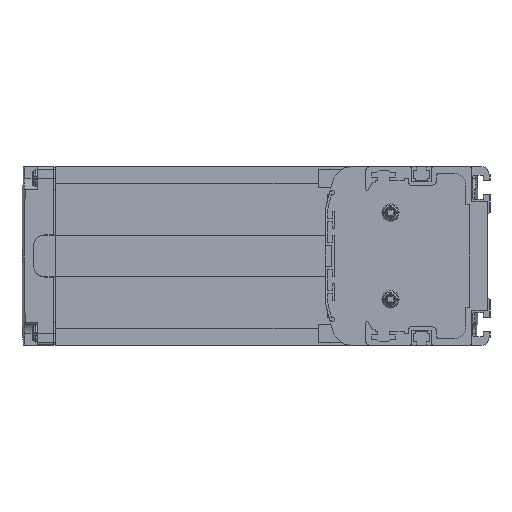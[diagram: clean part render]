
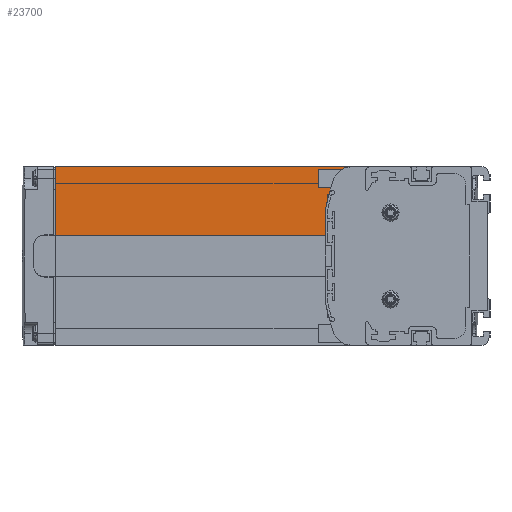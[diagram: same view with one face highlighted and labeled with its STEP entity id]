
A CAD part, left-side view. The second image highlights one B-rep face of the part: STEP entity #23700.
In plain terms, the highlighted planar face has unit normal (-1, 0, 0).
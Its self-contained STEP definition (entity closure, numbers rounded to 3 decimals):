
#1314=DIRECTION('',(0.,-1.,0.));
#1315=VECTOR('',#1314,0.571);
#1316=CARTESIAN_POINT('',(3.,71.,27.));
#1317=LINE('',#1316,#1315);
#1326=DIRECTION('',(0.,0.,1.));
#1327=VECTOR('',#1326,2.224);
#1328=CARTESIAN_POINT('',(3.,71.,24.776));
#1329=LINE('',#1328,#1327);
#1346=DIRECTION('',(0.,0.,-1.));
#1347=VECTOR('',#1346,29.9);
#1348=CARTESIAN_POINT('',(3.,190.,39.));
#1349=LINE('',#1348,#1347);
#5193=DIRECTION('',(0.,-1.,0.));
#5194=VECTOR('',#5193,129.245);
#5195=CARTESIAN_POINT('',(3.,190.,39.));
#5196=LINE('',#5195,#5194);
#6467=DIRECTION('',(0.,0.,-1.));
#6468=VECTOR('',#6467,10.723);
#6469=CARTESIAN_POINT('',(3.,72.,19.823));
#6470=LINE('',#6469,#6468);
#6483=CARTESIAN_POINT('',(3.,70.,19.823));
#6484=DIRECTION('',(1.,0.,0.));
#6485=DIRECTION('',(0.,1.,0.));
#6486=AXIS2_PLACEMENT_3D('',#6483,#6484,#6485);
#6492=CARTESIAN_POINT('',(3.,-6.765,6.));
#6493=DIRECTION('',(1.,0.,0.));
#6494=DIRECTION('',(0.,0.984,0.177));
#6495=AXIS2_PLACEMENT_3D('',#6492,#6493,#6494);
#6497=CARTESIAN_POINT('',(3.,-6.765,6.));
#6498=DIRECTION('',(1.,0.,0.));
#6499=DIRECTION('',(0.,0.965,0.263));
#6500=AXIS2_PLACEMENT_3D('',#6497,#6498,#6499);
#6506=CARTESIAN_POINT('',(3.,60.755,31.));
#6507=DIRECTION('',(-1.,0.,0.));
#6508=DIRECTION('',(0.,0.,1.));
#6509=AXIS2_PLACEMENT_3D('',#6506,#6507,#6508);
#11120=DIRECTION('',(0.,-1.,0.));
#11121=VECTOR('',#11120,118.);
#11122=CARTESIAN_POINT('',(3.,190.,9.1));
#11123=LINE('',#11122,#11121);
#17523=CARTESIAN_POINT('',(3.,190.,39.));
#17524=VERTEX_POINT('',#17523);
#17525=CARTESIAN_POINT('',(3.,190.,9.1));
#17526=VERTEX_POINT('',#17525);
#17555=CARTESIAN_POINT('',(3.,71.,27.));
#17557=VERTEX_POINT('',#17555);
#21505=CARTESIAN_POINT('',(3.,70.429,27.));
#21507=VERTEX_POINT('',#21505);
#21514=CARTESIAN_POINT('',(3.,71.,24.776));
#21516=VERTEX_POINT('',#21514);
#21524=CARTESIAN_POINT('',(3.,72.,9.1));
#21525=VERTEX_POINT('',#21524);
#21534=CARTESIAN_POINT('',(3.,72.,19.823));
#21535=CARTESIAN_POINT('',(3.,71.968,20.177));
#21536=VERTEX_POINT('',#21534);
#21537=VERTEX_POINT('',#21535);
#21538=CARTESIAN_POINT('',(3.,68.257,33.778));
#21539=VERTEX_POINT('',#21538);
#21540=CARTESIAN_POINT('',(3.,60.755,39.));
#21541=VERTEX_POINT('',#21540);
#23675=CARTESIAN_POINT('',(3.,105.,24.05));
#23676=DIRECTION('',(1.,0.,0.));
#23677=DIRECTION('',(0.,0.,1.));
#23678=AXIS2_PLACEMENT_3D('',#23675,#23676,#23677);
#23679=PLANE('',#23678);
#23681=ORIENTED_EDGE('',*,*,#23680,.F.);
#23683=ORIENTED_EDGE('',*,*,#23682,.T.);
#23685=ORIENTED_EDGE('',*,*,#23684,.F.);
#23687=ORIENTED_EDGE('',*,*,#23686,.F.);
#23689=ORIENTED_EDGE('',*,*,#23688,.T.);
#23691=ORIENTED_EDGE('',*,*,#23690,.T.);
#23693=ORIENTED_EDGE('',*,*,#23692,.F.);
#23694=ORIENTED_EDGE('',*,*,#23624,.F.);
#23695=ORIENTED_EDGE('',*,*,#23642,.F.);
#23697=ORIENTED_EDGE('',*,*,#23696,.F.);
#23698=EDGE_LOOP('',(#23681,#23683,#23685,#23687,#23689,#23691,#23693,#23694,
#23695,#23697));
#23699=FACE_OUTER_BOUND('',#23698,.F.);
#23700=ADVANCED_FACE('',(#23699),#23679,.F.);
#6487=CIRCLE('',#6486,2.);
#6496=CIRCLE('',#6495,80.);
#6501=CIRCLE('',#6500,80.);
#6510=CIRCLE('',#6509,8.);
#23624=EDGE_CURVE('',#17557,#21507,#1317,.T.);
#23642=EDGE_CURVE('',#21516,#17557,#1329,.T.);
#23680=EDGE_CURVE('',#21536,#21537,#6487,.T.);
#23682=EDGE_CURVE('',#21536,#21525,#6470,.T.);
#23684=EDGE_CURVE('',#17526,#21525,#11123,.T.);
#23686=EDGE_CURVE('',#17524,#17526,#1349,.T.);
#23688=EDGE_CURVE('',#17524,#21541,#5196,.T.);
#23690=EDGE_CURVE('',#21541,#21539,#6510,.T.);
#23692=EDGE_CURVE('',#21507,#21539,#6501,.T.);
#23696=EDGE_CURVE('',#21537,#21516,#6496,.T.);
